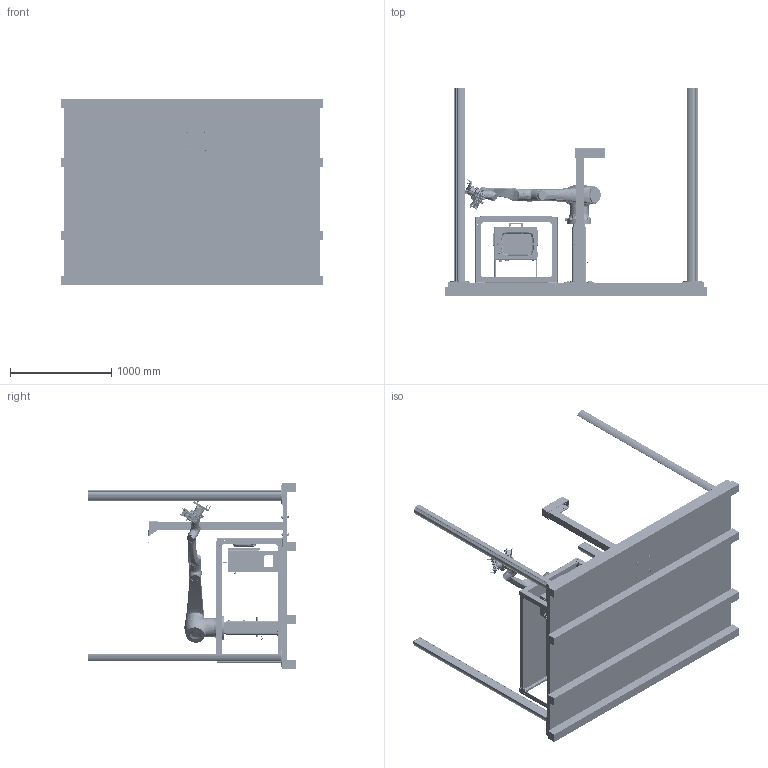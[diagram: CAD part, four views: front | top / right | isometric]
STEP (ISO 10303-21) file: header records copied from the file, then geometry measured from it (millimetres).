
FILE_DESCRIPTION (( 'STEP AP214' ), '1' );
FILE_NAME ('08-1949_STEP_04_02_2024.STEP', '2024-04-02T14:10:35', ( '' ), ( '' ), 'SwSTEP 2.0', 'SolidWorks 2022', '' );
FILE_SCHEMA (( 'AUTOMOTIVE_DESIGN' ));
Length unit declared in the file: inch
Products named in the file (113): 10000245454_Default<As Machined>; BG_10000128470; 10000255416; 10000255055; 10000245285; 10000248048; 10000255560; 70-0004; 70-0007; 10000245471; 10000248145_默认; 10000255551_Exploded view; 10000255039; 10000255066; 10000255041; 10000110128; 10000012881; Joint 6; 10000255031; 10000245335; 10000245363; 10000255362_GRIPPER CLOSED; 10000245239; 10000255363; BG_10000183202; 70-0016; 10000255077; Joint 1; 10000248146; 08-1949_STEP_04_02_2024; 10000255078; 10000255064; 10000248053; 10000245253; 10000255053; BG_45-1656; 10000255067; 10000255061; 40-0247; 10000255075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
Assembly tree (304 placements, depth 5):
  08-1949_STEP_04_02_2024
    09-0611
      10000245242_Default<As Machined>
      10000245454_Default<As Machined>
      10000245300_Default<As Welded>
      10000245335
      10000245219_91310A706  x8
      10000245315_98480A653
    10000245297  x4
      10000245302
      10000245363
      10000245245
      10000245283
    10000245502  x4
    10000248051
      10000248053  x4
      10000248048  x8
      BG_43-1602  x36
      BG_45-1656  x36
      BG_10000248047
    10000245417
      10000245367
        10000245337  x4
        10000245285
        10000245440
        10000245253  x4
        10000245471
        10000245441  x16
        10000245271  x2
        10000245293  x4
      10000245239
    10000247942_9017K181  x8
    10000248147
      10000248145_默认
      10000248146
    10000110128
    10000110125
    10000255055
      10000255045
      10000255052
      10000255057
    10000255066
    Joint 4
    Joint 2
    Joint 1
    Joint 3
    Joint 5
    Joint 6
      10000255029
      10000255050
      10000255046
      10000255061  x4
      10000255056
      10000255031
      10000255042
        10000255067
          10000255064
          10000255030
          10000255043
          10000255032
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Bounding box: 2578.1 x 2059.7 x 1828.8 mm (x, y, z)
Volume: 306784454.5 mm3; surface area: 38051660 mm2
Topology: 369 solids, 460 shells, 27292 faces, 67212 edges, 41287 vertices
Faces by surface type: plane 18367, cylinder 6290, bspline 1359, cone 1146, torus 114, sphere 16
Full cylindrical faces by diameter (mm): 0.45 x2, 1 x14, 1.1 x12, 1.25 x1, 1.6 x4, 1.8 x4, 2 x19, 2.3 x4, 2.5 x16, 2.6 x2, 2.8 x2, 3 x9, 3.175 x2, 3.2 x2, 3.3 x6, 3.4 x16, 3.429 x1, 3.5 x2, 3.9 x2, 4 x5, 4.134 x16, 4.2 x12, 4.917 x8, 5 x31, 5.1 x8, 5.105 x12, 5.2 x2, 5.263 x1, 5.3 x14, 5.5 x18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
Entity records: 1190566 total; most frequent: CARTESIAN_POINT 594086, ORIENTED_EDGE 111331, DIRECTION 105091, EDGE_CURVE 56297, AXIS2_PLACEMENT_3D 36561, VERTEX_POINT 34942, VECTOR 31969, LINE 31969
